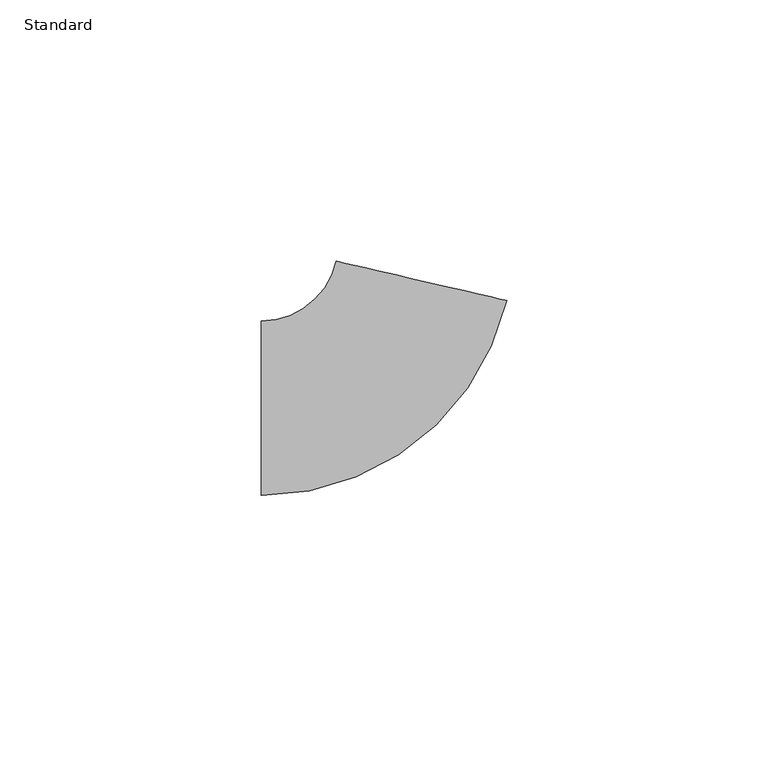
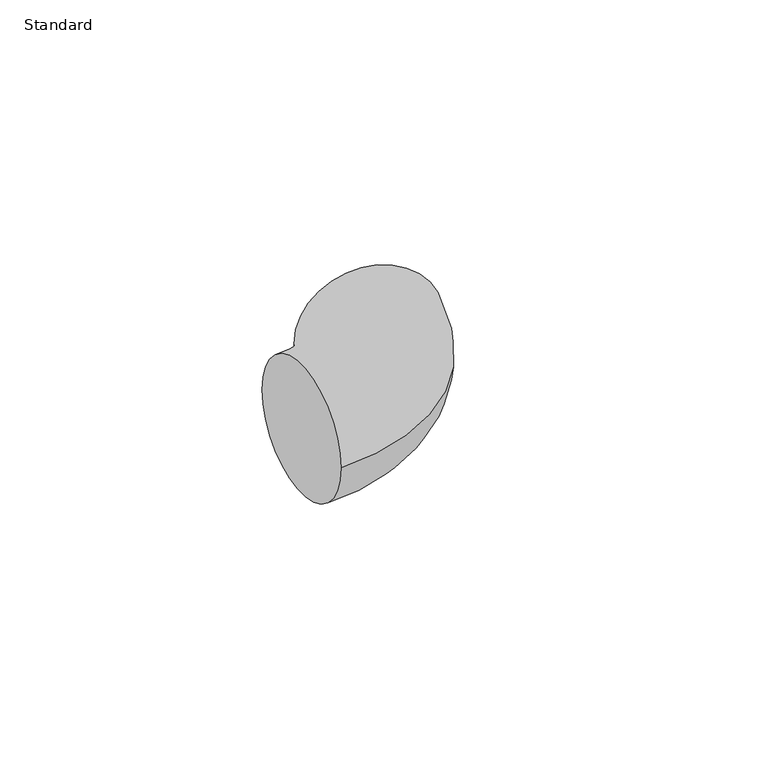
"""IFC4 building model written with IfcOpenShell, lengths in millimetres: pipe fitting geometry, Coude - Générique1 : Standard."""

from ifc_helpers import new_model, si_unit, point, frame, origin, place, context, project, spatial, circle_curve, ellipse_curve, trimmed, source, transform, mapped, element, save
from ifc_brep_helpers import plane_surface, revolved_surface, advanced_brep


def standard_b05dfe7e(model_context):
    return source(origin(), model_context, "Body", "AdvancedBrep", [
        advanced_brep(
        [(-25.0, -16.7, 0.0), (-25.0, 16.7, 0.0), (21.8991733, 20.598937, 0.0), (-10.6435402, 28.1177, 0.0)],
        [
            (0, 1, circle_curve(frame((-25.0, 0.0, 0.0), z_axis=(-1.0, 0.0, 0.0), x_axis=(0.0, 1.0, 0.0)), 16.7)),
            (1, 0, circle_curve(frame((-25.0, 0.0, 0.0), z_axis=(-1.0, 0.0, 0.0), x_axis=(0.0, 1.0, 0.0)), 16.7)),
            (2, 3, circle_curve(frame((5.6278166, 24.3583185, 0.0), z_axis=(0.2251126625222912, 0.9743327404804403, 0.0), x_axis=(-0.9743327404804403, 0.2251126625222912, 0.0)), 16.7)),
            (3, 2, circle_curve(frame((5.6278166, 24.3583185, 0.0), z_axis=(0.2251126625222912, 0.9743327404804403, 0.0), x_axis=(-0.9743327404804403, 0.2251126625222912, 0.0)), 16.7)),
            (3, 1, circle_curve(frame((-25.0, 31.4346581, 0.0), z_axis=(0.0, 0.0, -1.0), x_axis=(0.0, -1.0, 0.0)), 14.7346581)),
            (0, 2, circle_curve(frame((-25.0, 31.4346581, 0.0), z_axis=(0.0, 0.0, 1.0), x_axis=(0.0, -1.0, 0.0)), 48.1346581)),
        ],
        [
            plane_surface(frame((-25.0, 0.0, 0.0), z_axis=(-1.0, 0.0, 0.0), x_axis=(0.0, 0.0, 1.0))),
            plane_surface(frame((5.6278166, 24.3583185, 0.0), z_axis=(0.22511266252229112, 0.9743327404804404, 0.0), x_axis=(0.0, 0.0, 1.0))),
            revolved_surface(trimmed(ellipse_curve(frame((-25.0, 0.0, 0.0), z_axis=(-1.0, 0.0, 0.0), x_axis=(0.0, 1.0, 0.0)), 16.7, 16.7), [point((-25.0, -16.7, 0.0))], [point((-25.0, 16.7, 0.0))], True, "CARTESIAN"), (-25.0, 31.4346581, 0.0), (0.0, 0.0, 1.0)),
            revolved_surface(trimmed(ellipse_curve(frame((-25.0, 0.0, 0.0), z_axis=(-1.0, 0.0, 0.0), x_axis=(0.0, 1.0, 0.0)), 16.7, 16.7), [point((-25.0, 16.7, 0.0))], [point((-25.0, -16.7, 0.0))], True, "CARTESIAN"), (-25.0, 31.4346581, 0.0), (0.0, 0.0, 1.0)),
        ],
        [
            (0, [[1, 2]]),
            (1, [[3, 4]]),
            (2, [[5, -1, 6, -4]]),
            (3, [[-6, -2, -5, -3]]),
        ],
    ),
    ])


if __name__ == "__main__":
    model = new_model("IFC4")
    model_context = context("Model", 3, world=origin())
    ifc_project = project(units=[si_unit("LENGTHUNIT", "METRE", prefix="MILLI")], contexts=[model_context])
    site = spatial("IfcSite", under=ifc_project)
    building = spatial("IfcBuilding", under=site)
    placement = place(None, origin())
    standard_shape = standard_b05dfe7e(model_context)
    element("IfcPipeFitting", 1, ObjectType="Coude - Générique1 : Standard", at=placement, inside=building, context=model_context, shape_type="MappedRepresentation", body=[
        mapped(standard_shape, transform((0.0, 0.0, 0.0), x_axis=(1.0, 0.0, 0.0), y_axis=(0.0, 1.0, 0.0), z_axis=(0.0, 0.0, 1.0))),
    ])
    save(model, "model.ifc")
